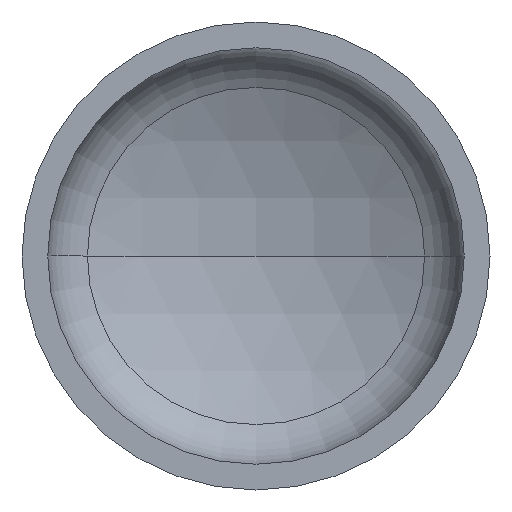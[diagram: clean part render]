
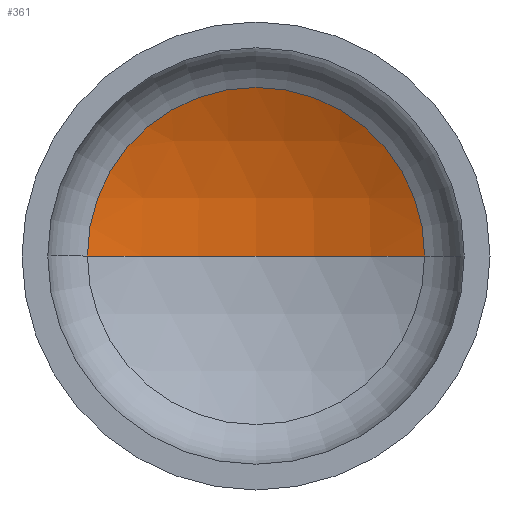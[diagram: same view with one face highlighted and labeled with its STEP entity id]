
A CAD part, front view. The second image highlights one B-rep face of the part: STEP entity #361.
In plain terms, the highlighted spherical face has radius 960 mm.
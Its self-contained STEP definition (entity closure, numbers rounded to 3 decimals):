
#7 = AXIS2_PLACEMENT_3D ( 'NONE', #346, #265, #154 ) ;
#18 = VERTEX_POINT ( 'NONE', #410 ) ;
#32 = AXIS2_PLACEMENT_3D ( 'NONE', #389, #46, #37 ) ;
#33 = AXIS2_PLACEMENT_3D ( 'NONE', #200, #369, #234 ) ;
#37 = DIRECTION ( 'NONE',  ( -1., 0., 0. ) ) ;
#46 = DIRECTION ( 'NONE',  ( 0., 0., -1. ) ) ;
#52 = ORIENTED_EDGE ( 'NONE', *, *, #79, .T. ) ;
#74 = ORIENTED_EDGE ( 'NONE', *, *, #91, .T. ) ;
#79 = EDGE_CURVE ( 'NONE', #123, #86, #365, .T. ) ;
#86 = VERTEX_POINT ( 'NONE', #354 ) ;
#91 = EDGE_CURVE ( 'NONE', #18, #123, #299, .T. ) ;
#105 = DIRECTION ( 'NONE',  ( -1., 0., 0. ) ) ;
#114 = ORIENTED_EDGE ( 'NONE', *, *, #357, .F. ) ;
#117 = SPHERICAL_SURFACE ( 'NONE', #190, 960. ) ;
#123 = VERTEX_POINT ( 'NONE', #199 ) ;
#149 = EDGE_LOOP ( 'NONE', ( #114, #74, #52 ) ) ;
#154 = DIRECTION ( 'NONE',  ( 1., 0., 0. ) ) ;
#190 = AXIS2_PLACEMENT_3D ( 'NONE', #202, #232, #105 ) ;
#199 = CARTESIAN_POINT ( 'NONE',  ( 432.31, 285.18, 0. ) ) ;
#200 = CARTESIAN_POINT ( 'NONE',  ( 0., 285.18, 0. ) ) ;
#202 = CARTESIAN_POINT ( 'NONE',  ( 0., -571.971, 0. ) ) ;
#232 = DIRECTION ( 'NONE',  ( 0., 0., -1. ) ) ;
#234 = DIRECTION ( 'NONE',  ( 1., 0., 0. ) ) ;
#265 = DIRECTION ( 'NONE',  ( 0., 0., 1. ) ) ;
#278 = FACE_OUTER_BOUND ( 'NONE', #149, .T. ) ;
#299 = CIRCLE ( 'NONE', #32, 960. ) ;
#328 = CIRCLE ( 'NONE', #7, 960. ) ;
#346 = CARTESIAN_POINT ( 'NONE',  ( 0., -571.971, 0. ) ) ;
#354 = CARTESIAN_POINT ( 'NONE',  ( -432.31, 285.18, 0. ) ) ;
#357 = EDGE_CURVE ( 'NONE', #18, #86, #328, .T. ) ;
#361 = ADVANCED_FACE ( 'NONE', ( #278 ), #117, .F. ) ;
#365 = CIRCLE ( 'NONE', #33, 432.31 ) ;
#369 = DIRECTION ( 'NONE',  ( 0., -1., 0. ) ) ;
#389 = CARTESIAN_POINT ( 'NONE',  ( 0., -571.971, 0. ) ) ;
#410 = CARTESIAN_POINT ( 'NONE',  ( 0., 388.029, 0. ) ) ;
